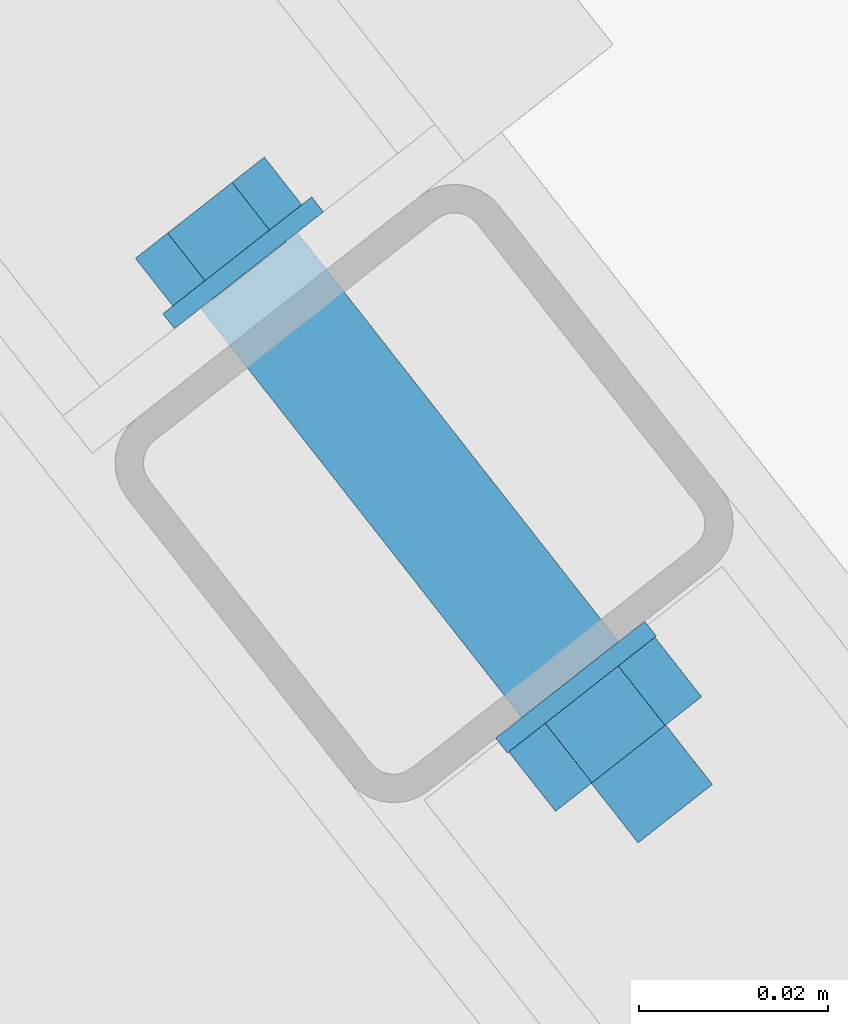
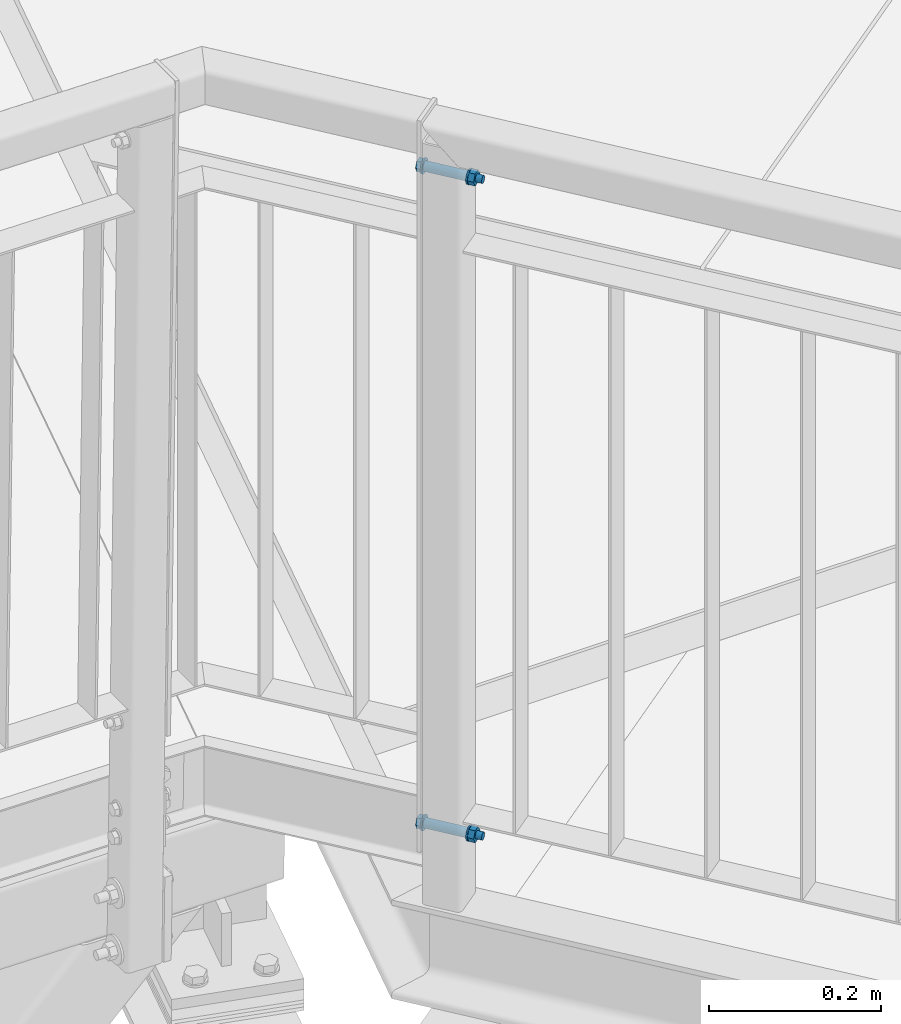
# One storey, part 166 of 169: 2 mechanical fasteners, 1 element without a shape of its own.
"""IFC2X3 building model written with IfcOpenShell, lengths in millimetres."""

from ifc_helpers import new_model, si_unit, frame, origin_with_axes, origin_2d_with_axis, place, context, subcontext, project, spatial, polyline, circle, outline, extrude, source, transform, mapped, material, type_object, element, aggregate, save


model = new_model("IFC2X3")

# Units and contexts
model_context = context("Model", 3, precision=1e-05, world=origin_with_axes())
body_context = subcontext(model_context, "Body", "Model", "MODEL_VIEW")
ifc_project = project(units=[si_unit("LENGTHUNIT", "METRE", prefix="MILLI"), si_unit("AREAUNIT", "SQUARE_METRE"), si_unit("VOLUMEUNIT", "CUBIC_METRE"), si_unit("MASSUNIT", "GRAM", prefix="KILO"), si_unit("TIMEUNIT", "SECOND"), si_unit("PLANEANGLEUNIT", "RADIAN"), si_unit("SOLIDANGLEUNIT", "STERADIAN"), si_unit("THERMODYNAMICTEMPERATUREUNIT", "DEGREE_CELSIUS"), si_unit("LUMINOUSINTENSITYUNIT", "LUMEN")], contexts=[model_context])

# Site, building, storey
site_placement = place(None, origin_with_axes())
site = spatial("IfcSite", under=ifc_project, at=site_placement, Name="Undefined", CompositionType="ELEMENT")
building_placement = place(site_placement, origin_with_axes())
building = spatial("IfcBuilding", under=site, at=building_placement, Name="Undefined", CompositionType="ELEMENT")
storey_placement = place(building_placement, origin_with_axes())
storey = spatial("IfcBuildingStorey", under=building, at=storey_placement, Name="Undefined", CompositionType="ELEMENT", Elevation=0.0)

# Assembly, mechanical fasteners
assembly_placement = place(storey_placement, origin_with_axes())
assembly = element("IfcElementAssembly", 1, at=assembly_placement, inside=storey, Name="Steel Assembly", AssemblyPlace="NOTDEFINED", PredefinedType="RIGID_FRAME")
ifc_material = material(Name="Undefined")
discrete_accessory_type = type_object("IfcDiscreteAccessoryType", Name="Bolt assembly")
shared_shape = source(origin_with_axes(), body_context, "Body", "SweptSolid", [
    extrude(circle(Radius=6.5, at=origin_2d_with_axis()), frame((0.0, 4.90083404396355, 0.0), z_axis=(0.0, 1.0, 0.0), x_axis=(1.0, 0.0, 0.0)), (0.0, 0.0, 1.0), 50.1),
    extrude(circle(Radius=6.5, at=origin_2d_with_axis()), frame((0.0, 0.100000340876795, 0.0), z_axis=(0.0, 1.0, 0.0), x_axis=(1.0, 0.0, 0.0)), (0.0, 0.0, 1.0), 5.0),
    extrude(outline(polyline([(8.66025403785, 0.0), (4.330127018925, 7.50000000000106), (-4.330127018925, 7.50000000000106), (-8.66025403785, 0.0), (-4.330127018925, -7.50000000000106), (4.330127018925, -7.50000000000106), (8.66025403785, 0.0)])), frame((0.0, -8.39999975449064, 0.0), z_axis=(0.0, 1.0, 0.0), x_axis=(1.0, 0.0, 0.0)), (0.0, 0.0, 1.0), 6.4),
    extrude(circle(Radius=5.0, at=origin_2d_with_axis()), frame((0.0, -1.9999996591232, 0.0), z_axis=(0.0, 1.0, 0.0), x_axis=(1.0, 0.0, 0.0)), (0.0, 0.0, 1.0), 75.0),
    extrude(circle(Radius=10.0, at=origin_2d_with_axis()), frame((0.0, -1.9999996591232, 0.0), z_axis=(0.0, 1.0, 0.0), x_axis=(1.0, 0.0, 0.0)), (0.0, 0.0, 1.0), 2.0),
    extrude(circle(Radius=10.0, at=origin_2d_with_axis()), frame((0.0, 54.9999999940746, 0.0), z_axis=(0.0, 1.0, 0.0), x_axis=(1.0, 0.0, 0.0)), (0.0, 0.0, 1.0), 2.0),
    extrude(outline(polyline([(9.81495457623, 0.0), (4.907477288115, 8.5000000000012), (-4.907477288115, 8.5000000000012), (-9.81495457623, 0.0), (-4.907477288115, -8.5000000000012), (4.907477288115, -8.5000000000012), (9.81495457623, 0.0)])), frame((0.0, 56.999999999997, 0.0), z_axis=(0.0, 1.0, 0.0), x_axis=(1.0, 0.0, 0.0)), (0.0, 0.0, 1.0), 8.0),
])
mechanical_fastener_1_placement = place(assembly_placement, frame((18539.9862069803, -189.144517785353, 14825.430889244), z_axis=(0.0, 0.0, 1.0), x_axis=(-0.7867732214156, -0.61724217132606, -1.0406294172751e-07)))
mechanical_fastener_1 = element("IfcMechanicalFastener", 2, at=mechanical_fastener_1_placement, type_object=discrete_accessory_type, material=ifc_material, Name="Bolt assembly", NominalDiameter=10.0, NominalLength=75.0, context=body_context, shape_type="MappedRepresentation", body=[
    mapped(shared_shape, transform((0.0, 0.0, 0.0))),
])
mechanical_fastener_2_placement = place(assembly_placement, frame((18539.9862851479, -189.144617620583, 13893.4308892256), z_axis=(0.0, 0.0, 1.0), x_axis=(-0.7867732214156, -0.61724217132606, -1.0406294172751e-07)))
mechanical_fastener_2 = element("IfcMechanicalFastener", 3, at=mechanical_fastener_2_placement, type_object=discrete_accessory_type, material=ifc_material, Name="Bolt assembly", NominalDiameter=10.0, NominalLength=75.0, context=body_context, shape_type="MappedRepresentation", body=[
    mapped(shared_shape, transform((0.0, 0.0, 0.0))),
])
aggregate(assembly, [mechanical_fastener_1, mechanical_fastener_2])

save(model, "model.ifc")
